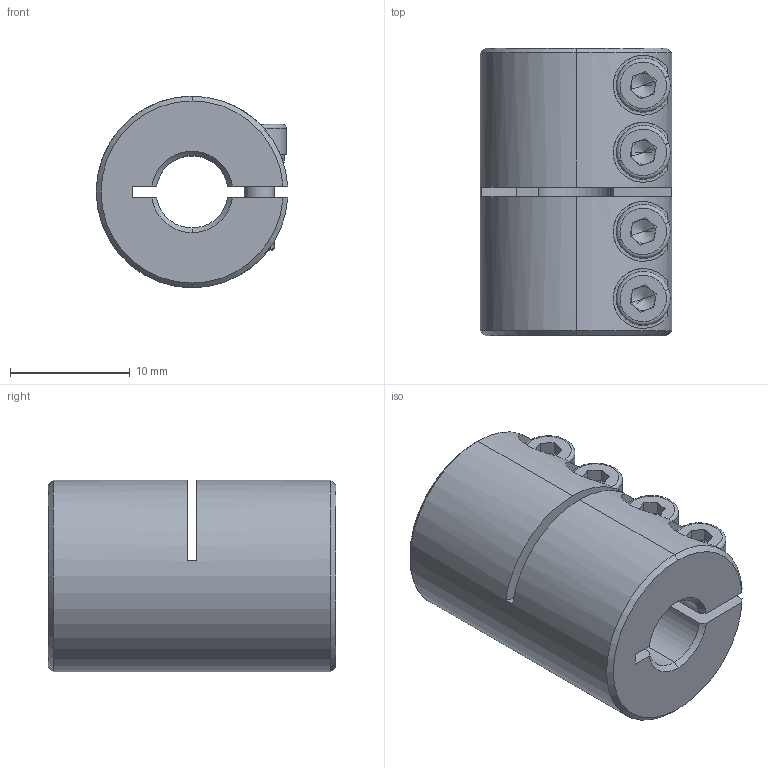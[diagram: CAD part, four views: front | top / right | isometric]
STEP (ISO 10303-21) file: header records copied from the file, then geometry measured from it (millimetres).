
FILE_DESCRIPTION (( 'STEP AP203' ), '1' );
FILE_NAME ('LL-B-D16L24-6-6.35.STEP', '2021-11-03T04:37:12', ( '' ), ( '' ), 'SwSTEP 2.0', 'SolidWorks 2018', '' );
FILE_SCHEMA (( 'CONFIG_CONTROL_DESIGN' ));
Length unit declared in the file: millimetre
Products named in the file (1): LL-B-D16L24-6-6.35
Bounding box: 15.98 x 24 x 16 mm (x, y, z)
Volume: 3802.1 mm3; surface area: 2927.1 mm2
Topology: 1 solids, 1 shells, 205 faces, 527 edges, 328 vertices
Faces by surface type: plane 92, cylinder 77, cone 28, torus 8
Entity records: 6642 total; most frequent: CARTESIAN_POINT 1521, DIRECTION 1103, ORIENTED_EDGE 1038, EDGE_CURVE 519, AXIS2_PLACEMENT_3D 430, VERTEX_POINT 328, VECTOR 243, LINE 243
